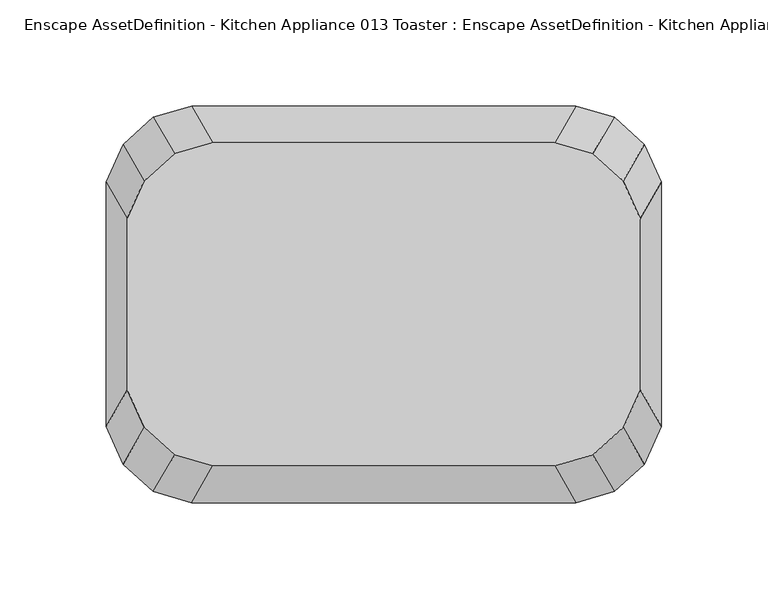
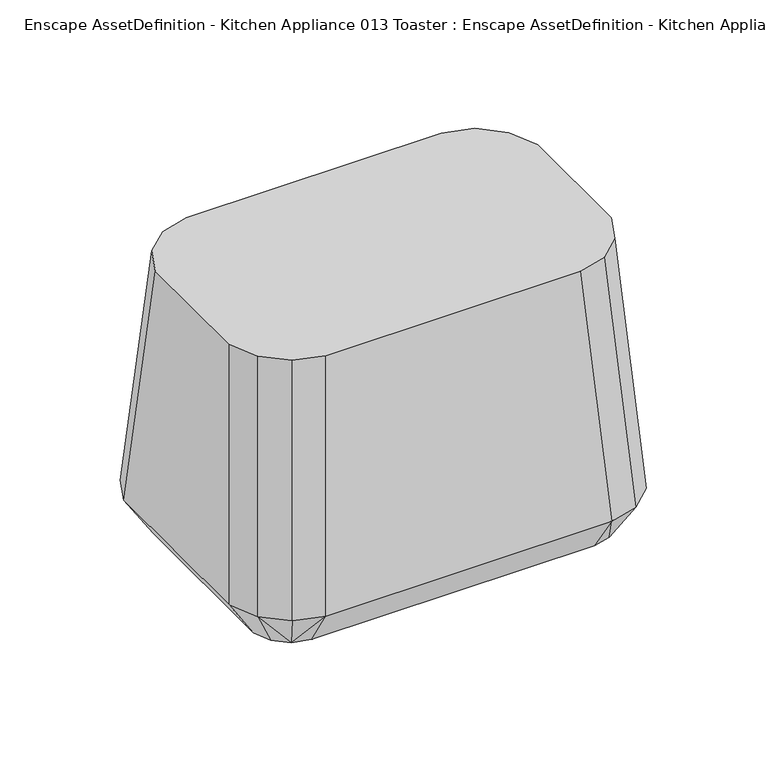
"""IFC4 building model written with IfcOpenShell, lengths in millimetres: geographic element geometry, Enscape AssetDefinition - Kitchen Appliance 013 Toaster : Enscape AssetDefinition - Kitchen Appliance 013 Toaster."""

import ifcopenshell
import ifcopenshell.guid

model = None  # the IFC model being written
_history = None  # IfcOwnerHistory: only IFC2X3 demands one
_inside = {}  # id of a spatial element -> (the spatial element, [elements in it])
_under = {}  # id of a project, library or spatial element -> (it, [spatial elements below it])
_declared = {}  # id of a project -> (the project, [libraries it declares])
_typed = {}  # id of a type object -> (the type object, [elements of that type])
_made_of = {}  # id of a material, layer set ... -> (it, [elements and type objects made of it])


def new_model(schema):
    """Start an empty IFC model of exactly this schema.

    Asked for "IFC4X3", IfcOpenShell would pick the latest addendum, in which some entities
    have other attributes; the version numbers below select the first issue.
    IFC2X3 requires an IfcOwnerHistory on every rooted entity: one is made here for all.
    """
    global model, _history
    if schema == "IFC4X3":
        model = ifcopenshell.file(schema_version=(4, 3, 0, 0))
    else:
        model = ifcopenshell.file(schema=schema)
    _inside.clear()
    _under.clear()
    _declared.clear()
    _typed.clear()
    _made_of.clear()
    _history = None
    if model.schema == "IFC2X3":
        org = make("IfcOrganization", Name="unknown")
        user = make(
            "IfcPersonAndOrganization",
            ThePerson=make("IfcPerson", FamilyName="unknown"),
            TheOrganization=org,
        )
        app = make(
            "IfcApplication",
            ApplicationDeveloper=org,
            Version="unknown",
            ApplicationFullName="unknown",
            ApplicationIdentifier="unknown",
        )
        _history = make(
            "IfcOwnerHistory",
            OwningUser=user,
            OwningApplication=app,
            ChangeAction="ADDED",
            CreationDate=0,
        )
    return model


def make(cls, **values):
    """One entity of the class cls with the attributes given. An attribute that is None is left unset."""
    return model.create_entity(
        cls, **{name: value for name, value in values.items() if value is not None}
    )


def rooted(cls, **values):
    """An entity with a GlobalId (a new one), such as an element, a storey or a relation."""
    return make(cls, GlobalId=ifcopenshell.guid.new(), OwnerHistory=_history, **values)


def si_unit(unit_type, name, prefix=None):
    """IfcSIUnit, for example si_unit("LENGTHUNIT", "METRE", prefix="MILLI")."""
    return make("IfcSIUnit", UnitType=unit_type, Prefix=prefix, Name=name)


def assignment(units):
    """IfcUnitAssignment: the units of a project."""
    return None if units is None else make("IfcUnitAssignment", Units=units)


def point(xyz):
    """IfcCartesianPoint."""
    return None if xyz is None else make("IfcCartesianPoint", Coordinates=xyz)


def direction(xyz):
    """IfcDirection."""
    return None if xyz is None else make("IfcDirection", DirectionRatios=xyz)


def frame(location, z_axis=None, x_axis=None):
    """IfcAxis2Placement3D, a coordinate frame: its origin and axes. An axis left out is left unset."""
    return make(
        "IfcAxis2Placement3D",
        Location=point(location),
        Axis=direction(z_axis),
        RefDirection=direction(x_axis),
    )


def origin():
    """The frame at (0, 0, 0) with its axes left unset."""
    return frame((0.0, 0.0, 0.0))


def place(relative_to, where):
    """IfcLocalPlacement: puts the frame where relative to a parent placement (None: the world)."""
    return make(
        "IfcLocalPlacement", PlacementRelTo=relative_to, RelativePlacement=where
    )


def context(
    kind, dimensions, precision=None, world=None, true_north=None, identifier=None
):
    """IfcGeometricRepresentationContext, for example the 3D "Model" context."""
    return make(
        "IfcGeometricRepresentationContext",
        ContextIdentifier=identifier,
        ContextType=kind,
        CoordinateSpaceDimension=dimensions,
        Precision=precision,
        WorldCoordinateSystem=world,
        TrueNorth=true_north,
    )


def project(units=None, contexts=None):
    """IfcProject with its units and contexts."""
    return rooted(
        "IfcProject",
        Name="project",
        RepresentationContexts=contexts,
        UnitsInContext=assignment(units),
    )


def spatial(cls, under=None, at=None, **own):
    """A site, building, storey or space (cls), placed at a placement, below another one or the project."""
    s = rooted(cls, ObjectPlacement=at, **own)
    if under is not None:
        _under.setdefault(under.id(), (under, []))[1].append(s)
    return s


def point_list(points):
    """IfcCartesianPointList2D or 3D."""
    cls = (
        "IfcCartesianPointList2D" if len(points[0]) == 2 else "IfcCartesianPointList3D"
    )
    return make(cls, CoordList=points)


def triangles(points, corners, closed=None, point_numbers=None):
    """IfcTriangulatedFaceSet: each triangle names its three corners, points numbered from 1."""
    return make(
        "IfcTriangulatedFaceSet",
        Coordinates=point_list(points),
        Closed=closed,
        CoordIndex=corners,
        PnIndex=point_numbers,
    )


def shape(context_of_items, identifier, shape_type, items):
    """IfcShapeRepresentation: the items that make up one representation, for example the "Body"."""
    return make(
        "IfcShapeRepresentation",
        ContextOfItems=context_of_items,
        RepresentationIdentifier=identifier,
        RepresentationType=shape_type,
        Items=items,
    )


def source(mapping_origin, context_of_items, identifier, shape_type, items):
    """IfcRepresentationMap: a shape defined once, which mapped items show again and again."""
    return make(
        "IfcRepresentationMap",
        MappingOrigin=mapping_origin,
        MappedRepresentation=shape(context_of_items, identifier, shape_type, items),
    )


def transform(
    local_origin,
    x_axis=None,
    y_axis=None,
    z_axis=None,
    scale=None,
    scale2=None,
    scale3=None,
    uniform=True,
):
    """IfcCartesianTransformationOperator3D, or its non-uniform kind. x_axis, y_axis, z_axis: its Axis1, 2, 3."""
    if uniform:
        return make(
            "IfcCartesianTransformationOperator3D",
            Axis1=direction(x_axis),
            Axis2=direction(y_axis),
            LocalOrigin=point(local_origin),
            Scale=scale,
            Axis3=direction(z_axis),
        )
    return make(
        "IfcCartesianTransformationOperator3DnonUniform",
        Axis1=direction(x_axis),
        Axis2=direction(y_axis),
        LocalOrigin=point(local_origin),
        Scale=scale,
        Axis3=direction(z_axis),
        Scale2=scale2,
        Scale3=scale3,
    )


def mapped(mapping_source, mapping_target):
    """IfcMappedItem: shows the shape of a source again, moved by a transform."""
    return make(
        "IfcMappedItem", MappingSource=mapping_source, MappingTarget=mapping_target
    )


def made_of(thing, what):
    """Note that an element or type object is made of a material, layer set ...; save() writes the relation."""
    if what is not None:
        _made_of.setdefault(what.id(), (what, []))[1].append(thing)
    return thing


def element(
    cls,
    number,
    at=None,
    inside=None,
    cuts=None,
    type_object=None,
    material=None,
    context=None,
    identifier="Body",
    shape_type=None,
    held_by="IfcProductDefinitionShape",
    body=None,
    shapes=None,
    **own,
):
    """One element of the class cls, such as IfcWall. Its Tag is "e" and its number.

    at: its placement. inside: the storey or other place that contains it. cuts: it is an
    opening in that element (IfcRelVoidsElement). A single representation is given by context,
    identifier, shape_type and body (its items); several are given by shapes. held_by: the class
    of the entity that holds the representations. save() writes the other relations.
    """
    e = rooted(cls, Tag="e%d" % number, ObjectPlacement=at, **own)
    if body is not None:
        shapes = [shape(context, identifier, shape_type, body)]
    if shapes is not None:
        e.Representation = make(held_by, Representations=shapes)
    if inside is not None:
        _inside.setdefault(inside.id(), (inside, []))[1].append(e)
    if cuts is not None:
        rooted(
            "IfcRelVoidsElement", RelatingBuildingElement=cuts, RelatedOpeningElement=e
        )
    if type_object is not None:
        _typed.setdefault(type_object.id(), (type_object, []))[1].append(e)
    return made_of(e, material)


def aggregate(whole, parts):
    """IfcRelAggregates: a whole, such as a stair, and the parts it consists of."""
    return rooted("IfcRelAggregates", RelatingObject=whole, RelatedObjects=parts)


def save(model, path):
    """Write the relations noted so far, then the file.

    IfcRelAggregates (storeys below a building ...), IfcRelContainedInSpatialStructure (elements
    in a storey), IfcRelDefinesByType, IfcRelAssociatesMaterial and IfcRelDeclares: one each for
    every whole, place, type object, material and project.
    """
    for whole, parts in _under.values():
        aggregate(whole, parts)
    for where, things in _inside.values():
        rooted(
            "IfcRelContainedInSpatialStructure",
            RelatedElements=things,
            RelatingStructure=where,
        )
    for kind, things in _typed.values():
        rooted("IfcRelDefinesByType", RelatedObjects=things, RelatingType=kind)
    for what, things in _made_of.values():
        rooted("IfcRelAssociatesMaterial", RelatedObjects=things, RelatingMaterial=what)
    for by, libraries in _declared.values():
        rooted("IfcRelDeclares", RelatingContext=by, RelatedDefinitions=libraries)
    model.write(path)


def enscape_assetdefinition_kitchen_appliance_013_toaster_69132773(model_context):
    return source(origin(), model_context, "Body", "Tessellation", [
        triangles([(-108.6469929, -88.2529979, 26.3999988), (-100.5209991, -73.3190031, 0.0), (90.5369973, -93.4930033, 26.3999988), (89.4090048, -76.3330042, 0.0), (108.6469929, -88.2529979, 26.3999988), (100.5209991, -73.3190031, 0.0), (109.1729964, -65.5500005, 0.0), (113.9650005, -54.8260003, 0.0), (130.904001, 57.619003, 26.3999988), (113.9650005, 54.8260003, 0.0), (89.4090048, 76.3330042, 0.0), (109.1729964, 65.5500005, 0.0), (100.5209991, 73.3190031, 0.0), (-100.5209991, 73.3190031, 0.0), (-108.6469929, 88.2529979, 26.3999988), (-109.1729964, 65.5500005, 0.0), (-89.4090048, 76.3330042, 0.0), (-113.9650005, 54.8260003, 0.0), (-113.9650005, -54.8260003, 0.0), (-130.904001, 57.619003, 26.3999988), (-89.4090048, -76.3330042, 0.0), (-109.1729964, -65.5500005, 0.0), (122.9379993, -75.3280011, 26.3999988), (130.904001, -57.619003, 26.3999988), (98.6960015, -71.0130028, 186.6839902), (112.9810035, -58.0810024, 186.6819918), (120.9610033, -40.3640015, 186.6819918), (122.9379993, 75.3280011, 26.3999988), (120.9610033, 40.3640015, 186.6819918), (80.5810008, -76.2560013, 186.6839902), (112.9810035, 58.0810024, 186.6819918), (98.6960015, 71.0130028, 186.6839902), (108.6469929, 88.2529979, 26.3999988), (90.5369973, 93.4930033, 26.3999988), (80.5810008, 76.2560013, 186.6839902), (-80.5810008, 76.2560013, 186.6839902), (-90.5369973, 93.4930033, 26.3999988), (-98.6960015, 71.0130028, 186.6839902), (-122.9379993, 75.3280011, 26.3999988), (-112.9810035, 58.0810024, 186.6819918), (-120.9610033, 40.3640015, 186.6819918), (-130.904001, -57.619003, 26.3999988), (-120.9610033, -40.3640015, 186.6819918), (-80.5810008, -76.2560013, 186.6839902), (-112.9810035, -58.0810024, 186.6819918), (-98.6960015, -71.0130028, 186.6839902), (-122.9379993, -75.3280011, 26.3999988), (-90.5369973, -93.4930033, 26.3999988)], [[48, 3, 30], [44, 30, 36], [48, 30, 44], [46, 1, 48], [46, 48, 44], [46, 47, 1], [46, 45, 47], [45, 46, 44], [43, 45, 44], [43, 44, 36], [45, 43, 42], [45, 42, 47], [41, 43, 36], [41, 42, 43], [41, 20, 42], [20, 41, 40], [40, 41, 36], [20, 40, 39], [39, 40, 38], [36, 38, 40], [39, 38, 15], [37, 15, 38], [37, 38, 36], [35, 34, 37], [35, 36, 30], [35, 37, 36], [32, 33, 34], [32, 34, 35], [32, 28, 33], [32, 31, 28], [31, 32, 35], [29, 35, 30], [29, 31, 35], [31, 29, 9], [31, 9, 28], [9, 29, 27], [27, 29, 30], [9, 27, 24], [24, 27, 26], [26, 27, 30], [3, 5, 25], [30, 25, 26], [3, 25, 30], [23, 26, 25], [24, 26, 23], [23, 25, 5], [19, 22, 47], [20, 19, 42], [19, 47, 42], [22, 19, 21], [20, 18, 19], [19, 18, 21], [18, 20, 39], [18, 39, 16], [17, 11, 21], [18, 16, 17], [21, 18, 17], [39, 15, 14], [16, 14, 17], [39, 14, 16], [14, 15, 37], [37, 11, 17], [14, 37, 17], [37, 34, 11], [13, 11, 34], [13, 34, 33], [11, 13, 12], [28, 12, 13], [28, 13, 33], [10, 12, 28], [12, 10, 11], [10, 28, 9], [10, 9, 24], [10, 8, 11], [10, 24, 8], [8, 24, 23], [8, 23, 7], [4, 11, 8], [8, 7, 4], [4, 21, 11], [23, 5, 6], [6, 4, 7], [23, 6, 7], [6, 5, 3], [21, 4, 3], [6, 3, 4], [21, 3, 48], [47, 22, 2], [21, 2, 22], [2, 21, 48], [47, 2, 1], [2, 48, 1]]),
    ])


if __name__ == "__main__":
    model = new_model("IFC4")
    model_context = context("Model", 3, world=origin())
    ifc_project = project(units=[si_unit("LENGTHUNIT", "METRE", prefix="MILLI")], contexts=[model_context])
    site = spatial("IfcSite", under=ifc_project)
    building = spatial("IfcBuilding", under=site)
    placement = place(None, origin())
    enscape_assetdefinition_kitchen_appliance_013_toaster_shape = enscape_assetdefinition_kitchen_appliance_013_toaster_69132773(model_context)
    element("IfcGeographicElement", 1, ObjectType="Enscape AssetDefinition - Kitchen Appliance 013 Toaster : Enscape AssetDefinition - Kitchen Appliance 013 Toaster", at=placement, inside=building, context=model_context, shape_type="MappedRepresentation", body=[
        mapped(enscape_assetdefinition_kitchen_appliance_013_toaster_shape, transform((0.0, 0.0, 0.0), x_axis=(1.0, 0.0, 0.0), y_axis=(0.0, 1.0, 0.0), z_axis=(0.0, 0.0, 1.0))),
    ])
    save(model, "model.ifc")
